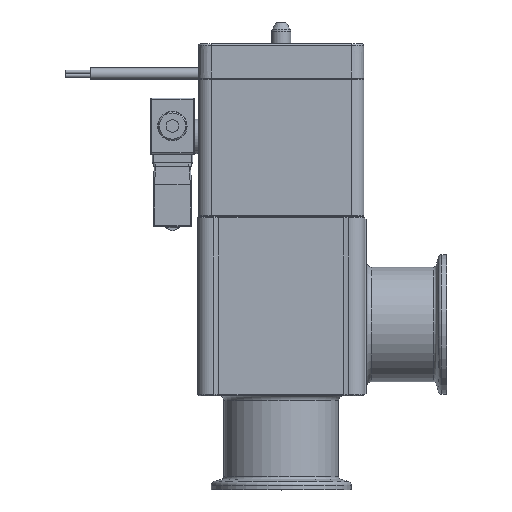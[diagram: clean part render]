
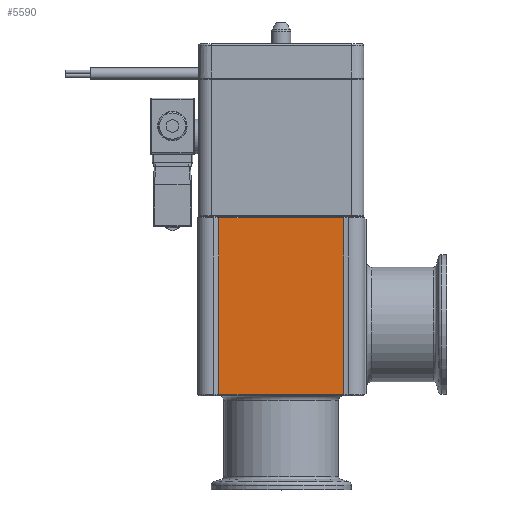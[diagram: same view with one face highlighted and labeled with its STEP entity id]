
A CAD part, top view. The second image highlights one B-rep face of the part: STEP entity #5590.
In plain terms, the highlighted planar face has unit normal (0, 0, 1).
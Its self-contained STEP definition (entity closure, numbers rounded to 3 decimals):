
#2291=LINE('',#20594,#3329);
#2292=LINE('',#20597,#3330);
#2293=LINE('',#20599,#3331);
#2294=LINE('',#20601,#3332);
#3329=VECTOR('',#16818,1.);
#3330=VECTOR('',#16819,1.);
#3331=VECTOR('',#16820,1.);
#3332=VECTOR('',#16821,1.);
#5590=ADVANCED_FACE('',(#6661),#6230,.T.);
#6230=PLANE('',#14859);
#6661=FACE_OUTER_BOUND('',#7371,.T.);
#7371=EDGE_LOOP('',(#9015,#9016,#9017,#9018));
#9015=ORIENTED_EDGE('',*,*,#12882,.T.);
#9016=ORIENTED_EDGE('',*,*,#12883,.T.);
#9017=ORIENTED_EDGE('',*,*,#12884,.T.);
#9018=ORIENTED_EDGE('',*,*,#12885,.T.);
#11618=VERTEX_POINT('',#20595);
#11619=VERTEX_POINT('',#20596);
#11620=VERTEX_POINT('',#20598);
#11621=VERTEX_POINT('',#20600);
#12882=EDGE_CURVE('',#11618,#11619,#2291,.T.);
#12883=EDGE_CURVE('',#11619,#11620,#2292,.T.);
#12884=EDGE_CURVE('',#11620,#11621,#2293,.T.);
#12885=EDGE_CURVE('',#11621,#11618,#2294,.T.);
#14859=AXIS2_PLACEMENT_3D('',#20602,#16822,#16823);
#16818=DIRECTION('',(0.,1.,0.));
#16819=DIRECTION('',(-1.,0.,0.));
#16820=DIRECTION('',(0.,-1.,0.));
#16821=DIRECTION('',(1.,0.,0.));
#16822=DIRECTION('',(0.,0.,1.));
#16823=DIRECTION('',(1.,0.,0.));
#20594=CARTESIAN_POINT('',(24.485,104.2,32.5));
#20595=CARTESIAN_POINT('',(24.485,34.4,32.5));
#20596=CARTESIAN_POINT('',(24.485,103.8,32.5));
#20597=CARTESIAN_POINT('',(-24.485,103.8,32.5));
#20598=CARTESIAN_POINT('',(-24.485,103.8,32.5));
#20599=CARTESIAN_POINT('',(-24.485,34.,32.5));
#20600=CARTESIAN_POINT('',(-24.485,34.4,32.5));
#20601=CARTESIAN_POINT('',(24.485,34.4,32.5));
#20602=CARTESIAN_POINT('',(-25.742,33.,32.5));
